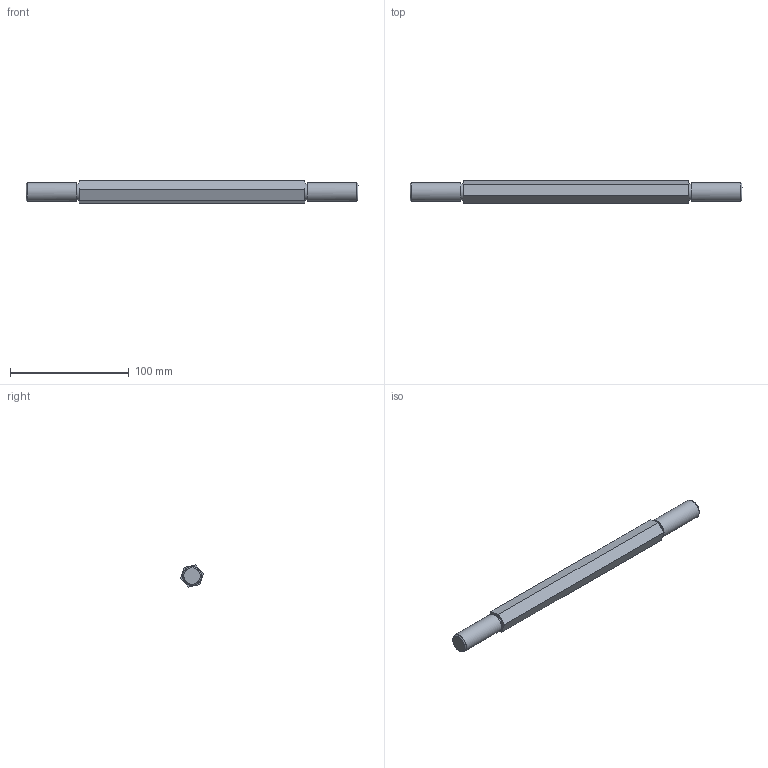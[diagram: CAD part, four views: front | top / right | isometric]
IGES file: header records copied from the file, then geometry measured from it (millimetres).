
Start section: File produced by SOLID-CONCEP (Trim Surfaces - Entity 144)
Global section: file name: 48.igs; native system: SOLID-CONCEPT V.5.xx; preprocessor: SOLID-CONCEPT-IGES-OUT v2.00; date: 100220.123319; units: millimetre
Bounding box: 280 x 19.18 x 18.7 mm (x, y, z)
Surface area: 16323.9 mm2 (no closed solid volume)
Topology: 0 solids, 0 shells, 18 faces, 96 edges, 84 vertices
Faces by surface type: bspline 12, revolution 6
